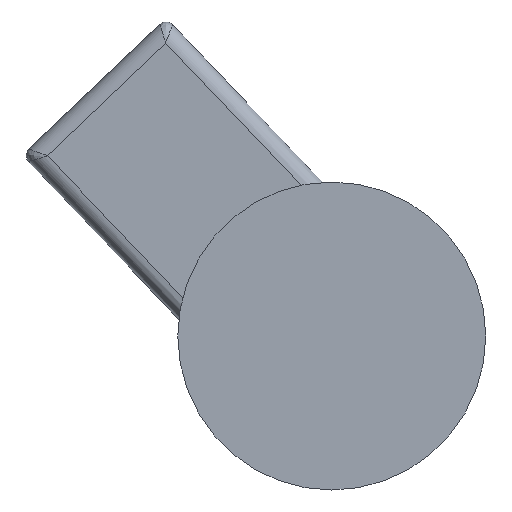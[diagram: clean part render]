
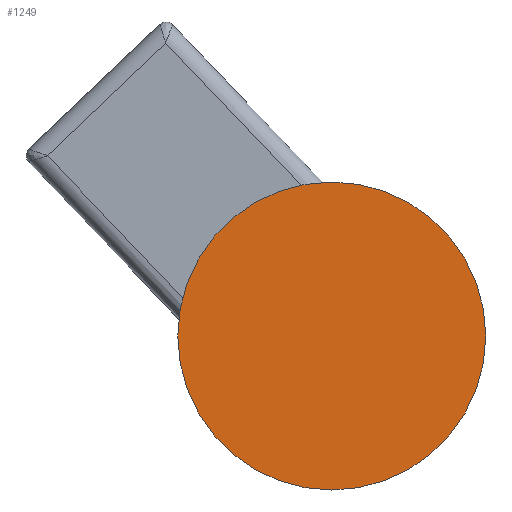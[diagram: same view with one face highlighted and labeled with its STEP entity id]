
A CAD part, front view. The second image highlights one B-rep face of the part: STEP entity #1249.
In plain terms, the highlighted planar face has unit normal (0, -1, 0).
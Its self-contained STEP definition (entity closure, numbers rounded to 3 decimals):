
#335 = PLANE ( 'NONE',  #1497 ) ;
#534 = CIRCLE ( 'NONE', #1762, 34.9 ) ;
#590 = CARTESIAN_POINT ( 'NONE',  ( 0., 0., 0. ) ) ;
#608 = CARTESIAN_POINT ( 'NONE',  ( 0., 0., 0. ) ) ;
#847 = DIRECTION ( 'NONE',  ( 0., 1., 0. ) ) ;
#1053 = CIRCLE ( 'NONE', #1259, 34.9 ) ;
#1246 = EDGE_LOOP ( 'NONE', ( #2612, #2220 ) ) ;
#1249 = ADVANCED_FACE ( 'NONE', ( #2757 ), #335, .F. ) ;
#1259 = AXIS2_PLACEMENT_3D ( 'NONE', #608, #2104, #2806 ) ;
#1497 = AXIS2_PLACEMENT_3D ( 'NONE', #590, #847, #2564 ) ;
#1557 = CARTESIAN_POINT ( 'NONE',  ( 34.9, 0., 0. ) ) ;
#1762 = AXIS2_PLACEMENT_3D ( 'NONE', #2782, #2541, #2999 ) ;
#1928 = VERTEX_POINT ( 'NONE', #2044 ) ;
#2044 = CARTESIAN_POINT ( 'NONE',  ( -34.9, 0., 0. ) ) ;
#2104 = DIRECTION ( 'NONE',  ( 0., -1., 0. ) ) ;
#2220 = ORIENTED_EDGE ( 'NONE', *, *, #2639, .T. ) ;
#2230 = EDGE_CURVE ( 'NONE', #3047, #1928, #534, .T. ) ;
#2541 = DIRECTION ( 'NONE',  ( 0., -1., 0. ) ) ;
#2564 = DIRECTION ( 'NONE',  ( -1., 0., 0. ) ) ;
#2612 = ORIENTED_EDGE ( 'NONE', *, *, #2230, .T. ) ;
#2639 = EDGE_CURVE ( 'NONE', #1928, #3047, #1053, .T. ) ;
#2757 = FACE_OUTER_BOUND ( 'NONE', #1246, .T. ) ;
#2782 = CARTESIAN_POINT ( 'NONE',  ( 0., 0., 0. ) ) ;
#2806 = DIRECTION ( 'NONE',  ( 1., 0., 0. ) ) ;
#2999 = DIRECTION ( 'NONE',  ( 1., 0., 0. ) ) ;
#3047 = VERTEX_POINT ( 'NONE', #1557 ) ;
